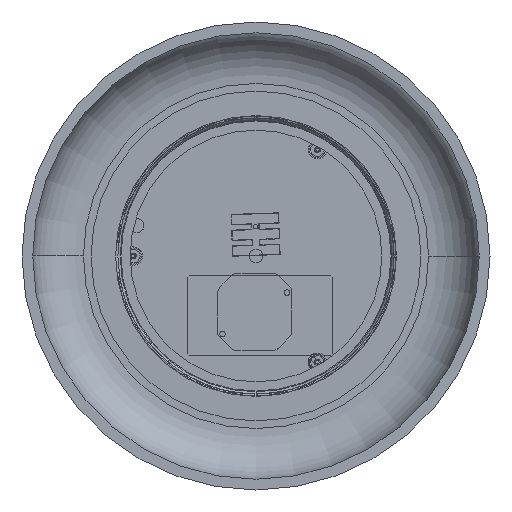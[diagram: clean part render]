
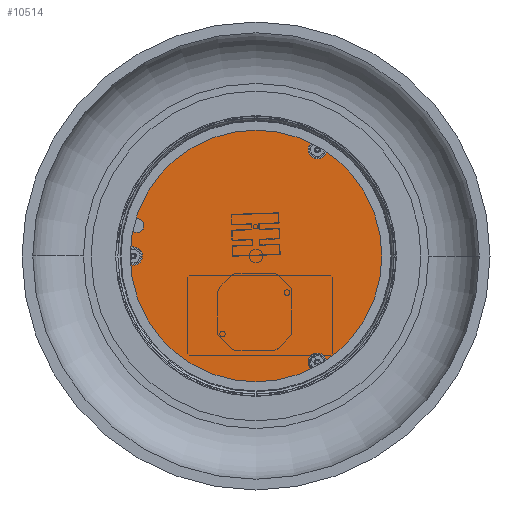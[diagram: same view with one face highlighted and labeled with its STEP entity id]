
A CAD part, front view. The second image highlights one B-rep face of the part: STEP entity #10514.
In plain terms, the highlighted planar face has unit normal (0, -1, 0).
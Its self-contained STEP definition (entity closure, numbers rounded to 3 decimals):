
#176 = ORIENTED_EDGE ( 'NONE', *, *, #12199, .T. ) ;
#283 = DIRECTION ( 'NONE',  ( 0., 0., 1. ) ) ;
#411 = FACE_BOUND ( 'NONE', #14480, .T. ) ;
#467 = CARTESIAN_POINT ( 'NONE',  ( 0., -1., -107.5 ) ) ;
#527 = DIRECTION ( 'NONE',  ( 0., 0., 1. ) ) ;
#713 = DIRECTION ( 'NONE',  ( 0., 0., 1. ) ) ;
#834 = CARTESIAN_POINT ( 'NONE',  ( -80., -1., 0. ) ) ;
#1161 = AXIS2_PLACEMENT_3D ( 'NONE', #13993, #7068, #283 ) ;
#1202 = CARTESIAN_POINT ( 'NONE',  ( 0., -1., 107.5 ) ) ;
#1254 = EDGE_CURVE ( 'NONE', #4959, #1579, #7015, .T. ) ;
#1266 = DIRECTION ( 'NONE',  ( 0., -1., 0. ) ) ;
#1344 = AXIS2_PLACEMENT_3D ( 'NONE', #13206, #6304, #14358 ) ;
#1571 = DIRECTION ( 'NONE',  ( 0., 1., 0. ) ) ;
#1579 = VERTEX_POINT ( 'NONE', #2641 ) ;
#1975 = DIRECTION ( 'NONE',  ( 0., 0., 1. ) ) ;
#2109 = AXIS2_PLACEMENT_3D ( 'NONE', #14407, #7484, #713 ) ;
#2321 = VERTEX_POINT ( 'NONE', #10529 ) ;
#2641 = CARTESIAN_POINT ( 'NONE',  ( 40., -1., 64.032 ) ) ;
#3126 = DIRECTION ( 'NONE',  ( 0., 1., 0. ) ) ;
#3156 = DIRECTION ( 'NONE',  ( 0., 1., 0. ) ) ;
#3212 = AXIS2_PLACEMENT_3D ( 'NONE', #12294, #7312, #527 ) ;
#3359 = EDGE_LOOP ( 'NONE', ( #3697, #10262 ) ) ;
#3440 = FACE_BOUND ( 'NONE', #6900, .T. ) ;
#3581 = CARTESIAN_POINT ( 'NONE',  ( -77.5, -1., 15.343 ) ) ;
#3697 = ORIENTED_EDGE ( 'NONE', *, *, #14098, .F. ) ;
#3792 = CARTESIAN_POINT ( 'NONE',  ( 40., -1., 74.532 ) ) ;
#3805 = DIRECTION ( 'NONE',  ( 0., 1., 0. ) ) ;
#3893 = ORIENTED_EDGE ( 'NONE', *, *, #10567, .T. ) ;
#3894 = ORIENTED_EDGE ( 'NONE', *, *, #4412, .F. ) ;
#3919 = CIRCLE ( 'NONE', #7021, 4.5 ) ;
#3986 = ORIENTED_EDGE ( 'NONE', *, *, #1254, .T. ) ;
#4163 = FACE_BOUND ( 'NONE', #6870, .T. ) ;
#4181 = CIRCLE ( 'NONE', #3212, 107.5 ) ;
#4412 = EDGE_CURVE ( 'NONE', #8359, #4607, #8188, .T. ) ;
#4579 = ORIENTED_EDGE ( 'NONE', *, *, #7950, .F. ) ;
#4607 = VERTEX_POINT ( 'NONE', #7539 ) ;
#4959 = VERTEX_POINT ( 'NONE', #3792 ) ;
#5039 = DIRECTION ( 'NONE',  ( 0., -1., 0. ) ) ;
#5174 = ORIENTED_EDGE ( 'NONE', *, *, #8947, .T. ) ;
#5183 = VERTEX_POINT ( 'NONE', #7617 ) ;
#5214 = CIRCLE ( 'NONE', #5441, 5.25 ) ;
#5386 = EDGE_CURVE ( 'NONE', #2321, #10813, #8699, .T. ) ;
#5441 = AXIS2_PLACEMENT_3D ( 'NONE', #10623, #3805, #11794 ) ;
#5652 = AXIS2_PLACEMENT_3D ( 'NONE', #9944, #3126, #11117 ) ;
#6304 = DIRECTION ( 'NONE',  ( 0., 1., 0. ) ) ;
#6793 = CARTESIAN_POINT ( 'NONE',  ( 40., -1., -64.032 ) ) ;
#6824 = CIRCLE ( 'NONE', #12503, 107.5 ) ;
#6870 = EDGE_LOOP ( 'NONE', ( #176, #3893 ) ) ;
#6900 = EDGE_LOOP ( 'NONE', ( #3986, #13066 ) ) ;
#7015 = CIRCLE ( 'NONE', #5652, 5.25 ) ;
#7021 = AXIS2_PLACEMENT_3D ( 'NONE', #8044, #1266, #9200 ) ;
#7022 = EDGE_LOOP ( 'NONE', ( #3894, #4579 ) ) ;
#7068 = DIRECTION ( 'NONE',  ( 0., 1., 0. ) ) ;
#7312 = DIRECTION ( 'NONE',  ( 0., 1., 0. ) ) ;
#7484 = DIRECTION ( 'NONE',  ( 0., 1., 0. ) ) ;
#7539 = CARTESIAN_POINT ( 'NONE',  ( -77.5, -1., 24.343 ) ) ;
#7617 = CARTESIAN_POINT ( 'NONE',  ( 40., -1., -74.532 ) ) ;
#7950 = EDGE_CURVE ( 'NONE', #4607, #8359, #3919, .T. ) ;
#8044 = CARTESIAN_POINT ( 'NONE',  ( -77.5, -1., 19.843 ) ) ;
#8188 = CIRCLE ( 'NONE', #11286, 4.5 ) ;
#8277 = VERTEX_POINT ( 'NONE', #6793 ) ;
#8359 = VERTEX_POINT ( 'NONE', #3581 ) ;
#8362 = CARTESIAN_POINT ( 'NONE',  ( 40., -1., -69.282 ) ) ;
#8470 = CIRCLE ( 'NONE', #9724, 5.25 ) ;
#8699 = CIRCLE ( 'NONE', #1161, 5.25 ) ;
#8772 = DIRECTION ( 'NONE',  ( 0., 1., 0. ) ) ;
#8947 = EDGE_CURVE ( 'NONE', #10813, #2321, #8470, .T. ) ;
#9111 = CIRCLE ( 'NONE', #2109, 5.25 ) ;
#9200 = DIRECTION ( 'NONE',  ( 0., 0., -1. ) ) ;
#9236 = CIRCLE ( 'NONE', #13457, 5.25 ) ;
#9272 = ORIENTED_EDGE ( 'NONE', *, *, #5386, .T. ) ;
#9464 = VERTEX_POINT ( 'NONE', #467 ) ;
#9472 = FACE_BOUND ( 'NONE', #7022, .T. ) ;
#9529 = DIRECTION ( 'NONE',  ( 0., 0., 1. ) ) ;
#9724 = AXIS2_PLACEMENT_3D ( 'NONE', #834, #8772, #1975 ) ;
#9944 = CARTESIAN_POINT ( 'NONE',  ( 40., -1., 69.282 ) ) ;
#9965 = CARTESIAN_POINT ( 'NONE',  ( 0., -1., 0. ) ) ;
#10262 = ORIENTED_EDGE ( 'NONE', *, *, #13590, .F. ) ;
#10391 = EDGE_CURVE ( 'NONE', #1579, #4959, #5214, .T. ) ;
#10514 = ADVANCED_FACE ( 'NONE', ( #9472, #3440, #4163, #411, #12227 ), #14306, .F. ) ;
#10529 = CARTESIAN_POINT ( 'NONE',  ( -80., -1., 5.25 ) ) ;
#10567 = EDGE_CURVE ( 'NONE', #5183, #8277, #9111, .T. ) ;
#10623 = CARTESIAN_POINT ( 'NONE',  ( 40., -1., 69.282 ) ) ;
#10813 = VERTEX_POINT ( 'NONE', #13810 ) ;
#11117 = DIRECTION ( 'NONE',  ( 0., 0., 1. ) ) ;
#11138 = DIRECTION ( 'NONE',  ( 0., 0., 1. ) ) ;
#11286 = AXIS2_PLACEMENT_3D ( 'NONE', #11910, #5039, #13067 ) ;
#11794 = DIRECTION ( 'NONE',  ( 0., 0., 1. ) ) ;
#11910 = CARTESIAN_POINT ( 'NONE',  ( -77.5, -1., 19.843 ) ) ;
#12199 = EDGE_CURVE ( 'NONE', #8277, #5183, #9236, .T. ) ;
#12227 = FACE_OUTER_BOUND ( 'NONE', #3359, .T. ) ;
#12294 = CARTESIAN_POINT ( 'NONE',  ( 0., -1., 0. ) ) ;
#12503 = AXIS2_PLACEMENT_3D ( 'NONE', #9965, #3156, #11138 ) ;
#13066 = ORIENTED_EDGE ( 'NONE', *, *, #10391, .T. ) ;
#13067 = DIRECTION ( 'NONE',  ( 0., 0., -1. ) ) ;
#13206 = CARTESIAN_POINT ( 'NONE',  ( 0., -1., 0. ) ) ;
#13457 = AXIS2_PLACEMENT_3D ( 'NONE', #8362, #1571, #9529 ) ;
#13590 = EDGE_CURVE ( 'NONE', #9464, #14124, #6824, .T. ) ;
#13810 = CARTESIAN_POINT ( 'NONE',  ( -80., -1., -5.25 ) ) ;
#13993 = CARTESIAN_POINT ( 'NONE',  ( -80., -1., 0. ) ) ;
#14098 = EDGE_CURVE ( 'NONE', #14124, #9464, #4181, .T. ) ;
#14124 = VERTEX_POINT ( 'NONE', #1202 ) ;
#14306 = PLANE ( 'NONE',  #1344 ) ;
#14358 = DIRECTION ( 'NONE',  ( 0., 0., 1. ) ) ;
#14407 = CARTESIAN_POINT ( 'NONE',  ( 40., -1., -69.282 ) ) ;
#14480 = EDGE_LOOP ( 'NONE', ( #9272, #5174 ) ) ;
